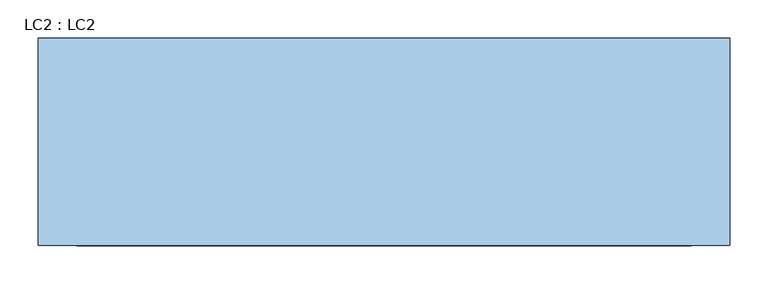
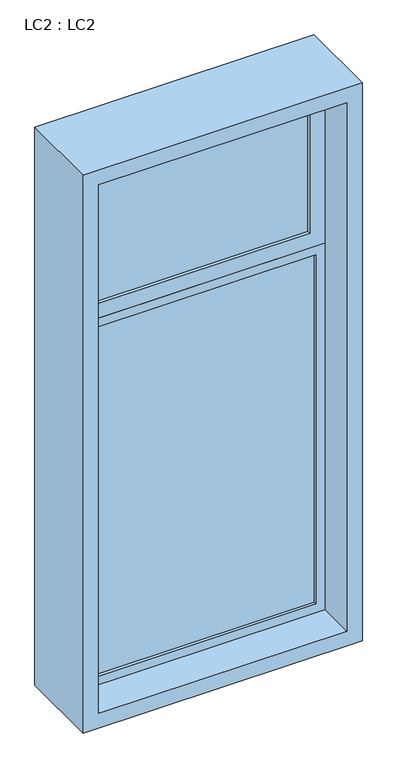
"""IFC4 building model written with IfcOpenShell, lengths in millimetres: window geometry, LC2 : LC2."""

import ifcopenshell
import ifcopenshell.guid

model = None  # the IFC model being written
_history = None  # IfcOwnerHistory: only IFC2X3 demands one
_inside = {}  # id of a spatial element -> (the spatial element, [elements in it])
_under = {}  # id of a project, library or spatial element -> (it, [spatial elements below it])
_declared = {}  # id of a project -> (the project, [libraries it declares])
_typed = {}  # id of a type object -> (the type object, [elements of that type])
_made_of = {}  # id of a material, layer set ... -> (it, [elements and type objects made of it])


def new_model(schema):
    """Start an empty IFC model of exactly this schema.

    Asked for "IFC4X3", IfcOpenShell would pick the latest addendum, in which some entities
    have other attributes; the version numbers below select the first issue.
    IFC2X3 requires an IfcOwnerHistory on every rooted entity: one is made here for all.
    """
    global model, _history
    if schema == "IFC4X3":
        model = ifcopenshell.file(schema_version=(4, 3, 0, 0))
    else:
        model = ifcopenshell.file(schema=schema)
    _inside.clear()
    _under.clear()
    _declared.clear()
    _typed.clear()
    _made_of.clear()
    _history = None
    if model.schema == "IFC2X3":
        org = make("IfcOrganization", Name="unknown")
        user = make(
            "IfcPersonAndOrganization",
            ThePerson=make("IfcPerson", FamilyName="unknown"),
            TheOrganization=org,
        )
        app = make(
            "IfcApplication",
            ApplicationDeveloper=org,
            Version="unknown",
            ApplicationFullName="unknown",
            ApplicationIdentifier="unknown",
        )
        _history = make(
            "IfcOwnerHistory",
            OwningUser=user,
            OwningApplication=app,
            ChangeAction="ADDED",
            CreationDate=0,
        )
    return model


def make(cls, **values):
    """One entity of the class cls with the attributes given. An attribute that is None is left unset."""
    return model.create_entity(
        cls, **{name: value for name, value in values.items() if value is not None}
    )


def rooted(cls, **values):
    """An entity with a GlobalId (a new one), such as an element, a storey or a relation."""
    return make(cls, GlobalId=ifcopenshell.guid.new(), OwnerHistory=_history, **values)


def si_unit(unit_type, name, prefix=None):
    """IfcSIUnit, for example si_unit("LENGTHUNIT", "METRE", prefix="MILLI")."""
    return make("IfcSIUnit", UnitType=unit_type, Prefix=prefix, Name=name)


def assignment(units):
    """IfcUnitAssignment: the units of a project."""
    return None if units is None else make("IfcUnitAssignment", Units=units)


def point(xyz):
    """IfcCartesianPoint."""
    return None if xyz is None else make("IfcCartesianPoint", Coordinates=xyz)


def direction(xyz):
    """IfcDirection."""
    return None if xyz is None else make("IfcDirection", DirectionRatios=xyz)


def frame(location, z_axis=None, x_axis=None):
    """IfcAxis2Placement3D, a coordinate frame: its origin and axes. An axis left out is left unset."""
    return make(
        "IfcAxis2Placement3D",
        Location=point(location),
        Axis=direction(z_axis),
        RefDirection=direction(x_axis),
    )


def origin():
    """The frame at (0, 0, 0) with its axes left unset."""
    return frame((0.0, 0.0, 0.0))


def place(relative_to, where):
    """IfcLocalPlacement: puts the frame where relative to a parent placement (None: the world)."""
    return make(
        "IfcLocalPlacement", PlacementRelTo=relative_to, RelativePlacement=where
    )


def context(
    kind, dimensions, precision=None, world=None, true_north=None, identifier=None
):
    """IfcGeometricRepresentationContext, for example the 3D "Model" context."""
    return make(
        "IfcGeometricRepresentationContext",
        ContextIdentifier=identifier,
        ContextType=kind,
        CoordinateSpaceDimension=dimensions,
        Precision=precision,
        WorldCoordinateSystem=world,
        TrueNorth=true_north,
    )


def project(units=None, contexts=None):
    """IfcProject with its units and contexts."""
    return rooted(
        "IfcProject",
        Name="project",
        RepresentationContexts=contexts,
        UnitsInContext=assignment(units),
    )


def spatial(cls, under=None, at=None, **own):
    """A site, building, storey or space (cls), placed at a placement, below another one or the project."""
    s = rooted(cls, ObjectPlacement=at, **own)
    if under is not None:
        _under.setdefault(under.id(), (under, []))[1].append(s)
    return s


def polyline(points):
    """IfcPolyline through the points."""
    return make("IfcPolyline", Points=[point(p) for p in points])


def outline(outer, holes=None, kind="AREA"):
    """IfcArbitraryClosedProfileDef: a profile drawn as a closed curve; with holes, ...WithVoids."""
    if holes is None:
        return make("IfcArbitraryClosedProfileDef", ProfileType=kind, OuterCurve=outer)
    return make(
        "IfcArbitraryProfileDefWithVoids",
        ProfileType=kind,
        OuterCurve=outer,
        InnerCurves=holes,
    )


def extrude(swept, where, along, depth):
    """IfcExtrudedAreaSolid: the profile swept, set in the frame where, extruded along a direction by depth."""
    return make(
        "IfcExtrudedAreaSolid",
        SweptArea=swept,
        Position=where,
        ExtrudedDirection=direction(along),
        Depth=depth,
    )


def shape(context_of_items, identifier, shape_type, items):
    """IfcShapeRepresentation: the items that make up one representation, for example the "Body"."""
    return make(
        "IfcShapeRepresentation",
        ContextOfItems=context_of_items,
        RepresentationIdentifier=identifier,
        RepresentationType=shape_type,
        Items=items,
    )


def source(mapping_origin, context_of_items, identifier, shape_type, items):
    """IfcRepresentationMap: a shape defined once, which mapped items show again and again."""
    return make(
        "IfcRepresentationMap",
        MappingOrigin=mapping_origin,
        MappedRepresentation=shape(context_of_items, identifier, shape_type, items),
    )


def transform(
    local_origin,
    x_axis=None,
    y_axis=None,
    z_axis=None,
    scale=None,
    scale2=None,
    scale3=None,
    uniform=True,
):
    """IfcCartesianTransformationOperator3D, or its non-uniform kind. x_axis, y_axis, z_axis: its Axis1, 2, 3."""
    if uniform:
        return make(
            "IfcCartesianTransformationOperator3D",
            Axis1=direction(x_axis),
            Axis2=direction(y_axis),
            LocalOrigin=point(local_origin),
            Scale=scale,
            Axis3=direction(z_axis),
        )
    return make(
        "IfcCartesianTransformationOperator3DnonUniform",
        Axis1=direction(x_axis),
        Axis2=direction(y_axis),
        LocalOrigin=point(local_origin),
        Scale=scale,
        Axis3=direction(z_axis),
        Scale2=scale2,
        Scale3=scale3,
    )


def mapped(mapping_source, mapping_target):
    """IfcMappedItem: shows the shape of a source again, moved by a transform."""
    return make(
        "IfcMappedItem", MappingSource=mapping_source, MappingTarget=mapping_target
    )


def made_of(thing, what):
    """Note that an element or type object is made of a material, layer set ...; save() writes the relation."""
    if what is not None:
        _made_of.setdefault(what.id(), (what, []))[1].append(thing)
    return thing


def element(
    cls,
    number,
    at=None,
    inside=None,
    cuts=None,
    type_object=None,
    material=None,
    context=None,
    identifier="Body",
    shape_type=None,
    held_by="IfcProductDefinitionShape",
    body=None,
    shapes=None,
    **own,
):
    """One element of the class cls, such as IfcWall. Its Tag is "e" and its number.

    at: its placement. inside: the storey or other place that contains it. cuts: it is an
    opening in that element (IfcRelVoidsElement). A single representation is given by context,
    identifier, shape_type and body (its items); several are given by shapes. held_by: the class
    of the entity that holds the representations. save() writes the other relations.
    """
    e = rooted(cls, Tag="e%d" % number, ObjectPlacement=at, **own)
    if body is not None:
        shapes = [shape(context, identifier, shape_type, body)]
    if shapes is not None:
        e.Representation = make(held_by, Representations=shapes)
    if inside is not None:
        _inside.setdefault(inside.id(), (inside, []))[1].append(e)
    if cuts is not None:
        rooted(
            "IfcRelVoidsElement", RelatingBuildingElement=cuts, RelatedOpeningElement=e
        )
    if type_object is not None:
        _typed.setdefault(type_object.id(), (type_object, []))[1].append(e)
    return made_of(e, material)


def aggregate(whole, parts):
    """IfcRelAggregates: a whole, such as a stair, and the parts it consists of."""
    return rooted("IfcRelAggregates", RelatingObject=whole, RelatedObjects=parts)


def save(model, path):
    """Write the relations noted so far, then the file.

    IfcRelAggregates (storeys below a building ...), IfcRelContainedInSpatialStructure (elements
    in a storey), IfcRelDefinesByType, IfcRelAssociatesMaterial and IfcRelDeclares: one each for
    every whole, place, type object, material and project.
    """
    for whole, parts in _under.values():
        aggregate(whole, parts)
    for where, things in _inside.values():
        rooted(
            "IfcRelContainedInSpatialStructure",
            RelatedElements=things,
            RelatingStructure=where,
        )
    for kind, things in _typed.values():
        rooted("IfcRelDefinesByType", RelatedObjects=things, RelatingType=kind)
    for what, things in _made_of.values():
        rooted("IfcRelAssociatesMaterial", RelatedObjects=things, RelatingMaterial=what)
    for by, libraries in _declared.values():
        rooted("IfcRelDeclares", RelatingContext=by, RelatedDefinitions=libraries)
    model.write(path)


def lc2_lc2_3adccf1d(model_context):
    return source(origin(), model_context, "Body", "SweptSolid", [
        extrude(outline(polyline([(3400.0, 450.0), (3400.0, -450.0), (1500.0, -450.0), (1500.0, 450.0), (3400.0, 450.0)]), holes=[polyline([(3350.0, 400.0), (1550.0, 400.0), (1550.0, -400.0), (3350.0, -400.0), (3350.0, 400.0)])]), frame((0.0, -135.0, 0.0), z_axis=(0.0, 1.0, 0.0), x_axis=(0.0, 0.0, 1.0)), (0.0, 0.0, 1.0), 270.0),
        extrude(outline(polyline([(350.0, 5.2868922), (350.0, -4.7131078), (-350.0, -4.7131078), (-350.0, 5.2868922), (350.0, 5.2868922)])), frame((0.0, 0.0, 2850.0), z_axis=(0.0, 0.0, 1.0), x_axis=(1.0, 0.0, 0.0)), (0.0, 0.0, 1.0), 450.0),
        extrude(outline(polyline([(370.0, 5.2868922), (370.0, -4.7131078), (-370.0, -4.7131078), (-370.0, 5.2868922), (370.0, 5.2868922)])), frame((0.0, 0.0, 1580.0), z_axis=(0.0, 0.0, 1.0), x_axis=(1.0, 0.0, 0.0)), (0.0, 0.0, 1.0), 1190.0),
        extrude(outline(polyline([(3350.0, 400.0), (3350.0, -400.0), (2800.0, -400.0), (2800.0, 400.0), (3350.0, 400.0)]), holes=[polyline([(3300.0, 350.0), (2850.0, 350.0), (2850.0, -350.0), (3300.0, -350.0), (3300.0, 350.0)])]), frame((0.0, -15.0, 0.0), z_axis=(0.0, 1.0, 0.0), x_axis=(0.0, 0.0, 1.0)), (0.0, 0.0, 1.0), 30.0),
        extrude(outline(polyline([(2800.0, 400.0), (2800.0, -400.0), (1550.0, -400.0), (1550.0, 400.0), (2800.0, 400.0)]), holes=[polyline([(2770.0, 370.0), (1580.0, 370.0), (1580.0, -370.0), (2770.0, -370.0), (2770.0, 370.0)])]), frame((0.0, -15.0, 0.0), z_axis=(0.0, 1.0, 0.0), x_axis=(0.0, 0.0, 1.0)), (0.0, 0.0, 1.0), 30.0),
    ])


if __name__ == "__main__":
    model = new_model("IFC4")
    model_context = context("Model", 3, world=origin())
    ifc_project = project(units=[si_unit("LENGTHUNIT", "METRE", prefix="MILLI")], contexts=[model_context])
    site = spatial("IfcSite", under=ifc_project)
    building = spatial("IfcBuilding", under=site)
    placement = place(None, origin())
    lc2_lc2_shape = lc2_lc2_3adccf1d(model_context)
    element("IfcWindow", 1, ObjectType="LC2 : LC2", at=placement, inside=building, context=model_context, shape_type="MappedRepresentation", body=[
        mapped(lc2_lc2_shape, transform((0.0, 0.0, 0.0), x_axis=(1.0, 0.0, 0.0), y_axis=(0.0, 1.0, 0.0), z_axis=(0.0, 0.0, 1.0))),
    ])
    save(model, "model.ifc")
